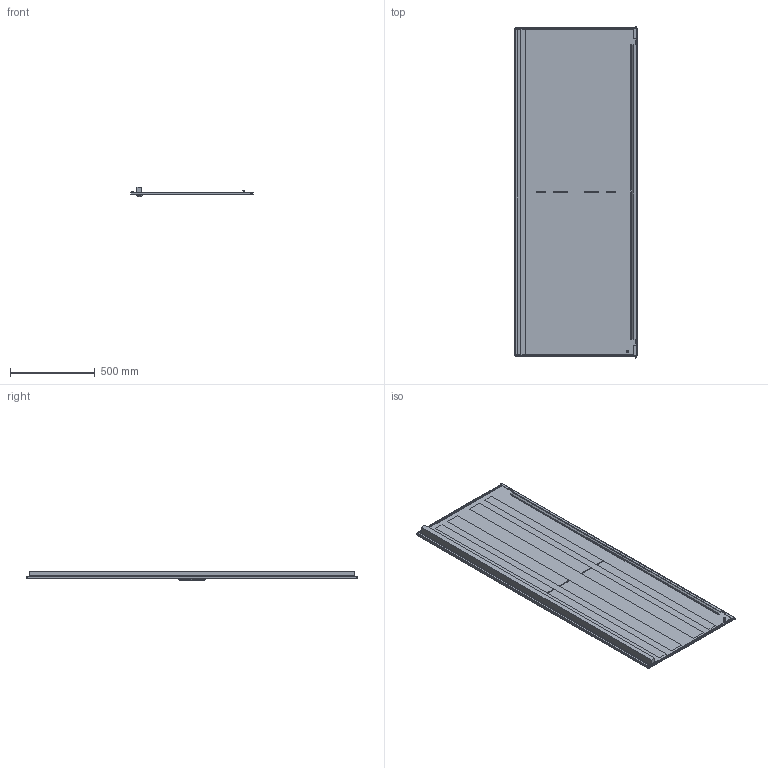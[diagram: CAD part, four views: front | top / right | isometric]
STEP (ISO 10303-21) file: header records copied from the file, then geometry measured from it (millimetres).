
FILE_DESCRIPTION (( 'STEP AP203' ), '1' );
FILE_NAME ('D 200.80 IP Äâåðü òåëåêîììóíèêàöèîííàÿ ïåðôîðèðîâàííàÿ.STEP', '2013-01-15T06:47:57', ( 'System' ), ( '' ), 'SwSTEP 2.0', 'SolidWorks 2012', '' );
FILE_SCHEMA (( 'CONFIG_CONTROL_DESIGN' ));
Length unit declared in the file: millimetre
Products named in the file (1): D 200.80 IP Äâåðü òåëåêîììóíèêàöèîííàÿ ïåðôîðèðîâàííàÿ
Bounding box: 718 x 1953.5 x 55 mm (x, y, z)
Volume: 4449653.7 mm3; surface area: 3274935.4 mm2
Topology: 5 solids, 5 shells, 281 faces, 694 edges, 410 vertices
Faces by surface type: cylinder 142, plane 91, sphere 24, cone 20, torus 4
Entity records: 8339 total; most frequent: DIRECTION 1552, CARTESIAN_POINT 1366, ORIENTED_EDGE 1348, EDGE_CURVE 674, AXIS2_PLACEMENT_3D 596, VERTEX_POINT 410, VECTOR 360, LINE 360
